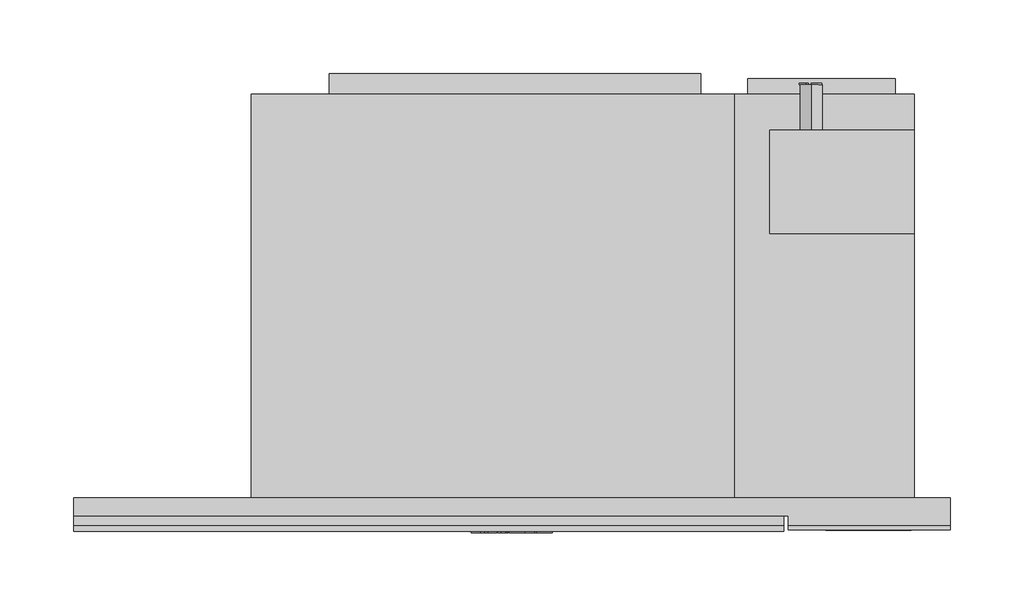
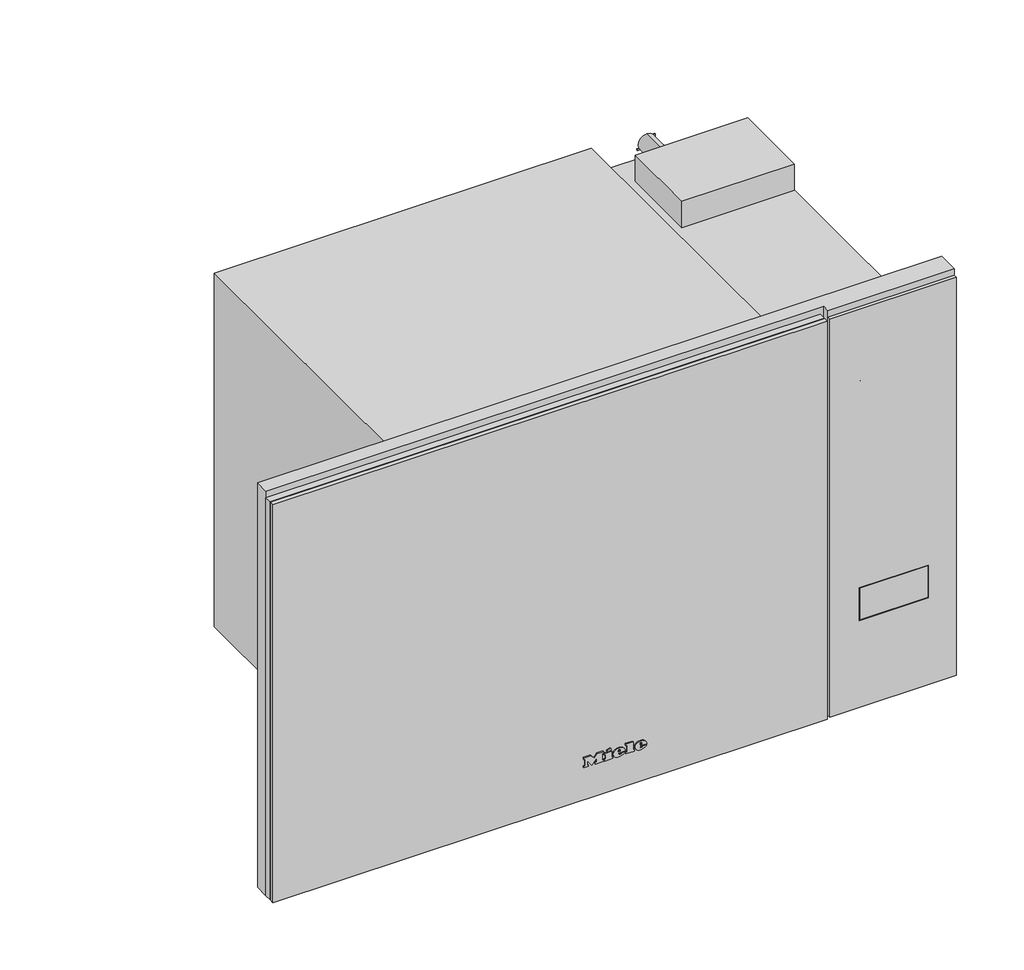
# Not in any storey: 1 proxy.
"""IFC4 building model written with IfcOpenShell, lengths in millimetres."""

import ifcopenshell
import ifcopenshell.guid

model = None  # the IFC model being written
_history = None  # IfcOwnerHistory: only IFC2X3 demands one
_inside = {}  # id of a spatial element -> (the spatial element, [elements in it])
_under = {}  # id of a project, library or spatial element -> (it, [spatial elements below it])
_declared = {}  # id of a project -> (the project, [libraries it declares])
_typed = {}  # id of a type object -> (the type object, [elements of that type])
_made_of = {}  # id of a material, layer set ... -> (it, [elements and type objects made of it])


def new_model(schema):
    """Start an empty IFC model of exactly this schema.

    Asked for "IFC4X3", IfcOpenShell would pick the latest addendum, in which some entities
    have other attributes; the version numbers below select the first issue.
    IFC2X3 requires an IfcOwnerHistory on every rooted entity: one is made here for all.
    """
    global model, _history
    if schema == "IFC4X3":
        model = ifcopenshell.file(schema_version=(4, 3, 0, 0))
    else:
        model = ifcopenshell.file(schema=schema)
    _inside.clear()
    _under.clear()
    _declared.clear()
    _typed.clear()
    _made_of.clear()
    _history = None
    if model.schema == "IFC2X3":
        org = make("IfcOrganization", Name="unknown")
        user = make(
            "IfcPersonAndOrganization",
            ThePerson=make("IfcPerson", FamilyName="unknown"),
            TheOrganization=org,
        )
        app = make(
            "IfcApplication",
            ApplicationDeveloper=org,
            Version="unknown",
            ApplicationFullName="unknown",
            ApplicationIdentifier="unknown",
        )
        _history = make(
            "IfcOwnerHistory",
            OwningUser=user,
            OwningApplication=app,
            ChangeAction="ADDED",
            CreationDate=0,
        )
    return model


def make(cls, **values):
    """One entity of the class cls with the attributes given. An attribute that is None is left unset."""
    return model.create_entity(
        cls, **{name: value for name, value in values.items() if value is not None}
    )


def rooted(cls, **values):
    """An entity with a GlobalId (a new one), such as an element, a storey or a relation."""
    return make(cls, GlobalId=ifcopenshell.guid.new(), OwnerHistory=_history, **values)


def si_unit(unit_type, name, prefix=None):
    """IfcSIUnit, for example si_unit("LENGTHUNIT", "METRE", prefix="MILLI")."""
    return make("IfcSIUnit", UnitType=unit_type, Prefix=prefix, Name=name)


def assignment(units):
    """IfcUnitAssignment: the units of a project."""
    return None if units is None else make("IfcUnitAssignment", Units=units)


def point(xyz):
    """IfcCartesianPoint."""
    return None if xyz is None else make("IfcCartesianPoint", Coordinates=xyz)


def direction(xyz):
    """IfcDirection."""
    return None if xyz is None else make("IfcDirection", DirectionRatios=xyz)


def frame(location, z_axis=None, x_axis=None):
    """IfcAxis2Placement3D, a coordinate frame: its origin and axes. An axis left out is left unset."""
    return make(
        "IfcAxis2Placement3D",
        Location=point(location),
        Axis=direction(z_axis),
        RefDirection=direction(x_axis),
    )


def frame_2d(location, x_axis=None):
    """IfcAxis2Placement2D, a coordinate frame in the plane: its origin and x axis."""
    return make(
        "IfcAxis2Placement2D", Location=point(location), RefDirection=direction(x_axis)
    )


def origin():
    """The frame at (0, 0, 0) with its axes left unset."""
    return frame((0.0, 0.0, 0.0))


def origin_with_axes():
    """The frame at (0, 0, 0) with the z axis (0, 0, 1) and the x axis (1, 0, 0) written out."""
    return frame((0.0, 0.0, 0.0), z_axis=(0.0, 0.0, 1.0), x_axis=(1.0, 0.0, 0.0))


def place(relative_to, where):
    """IfcLocalPlacement: puts the frame where relative to a parent placement (None: the world)."""
    return make(
        "IfcLocalPlacement", PlacementRelTo=relative_to, RelativePlacement=where
    )


def context(
    kind, dimensions, precision=None, world=None, true_north=None, identifier=None
):
    """IfcGeometricRepresentationContext, for example the 3D "Model" context."""
    return make(
        "IfcGeometricRepresentationContext",
        ContextIdentifier=identifier,
        ContextType=kind,
        CoordinateSpaceDimension=dimensions,
        Precision=precision,
        WorldCoordinateSystem=world,
        TrueNorth=true_north,
    )


def project(units=None, contexts=None):
    """IfcProject with its units and contexts."""
    return rooted(
        "IfcProject",
        Name="project",
        RepresentationContexts=contexts,
        UnitsInContext=assignment(units),
    )


def spatial(cls, under=None, at=None, **own):
    """A site, building, storey or space (cls), placed at a placement, below another one or the project."""
    s = rooted(cls, ObjectPlacement=at, **own)
    if under is not None:
        _under.setdefault(under.id(), (under, []))[1].append(s)
    return s


def polyline(points):
    """IfcPolyline through the points."""
    return make("IfcPolyline", Points=[point(p) for p in points])


def circle_curve(where, radius):
    """IfcCircle in the frame where."""
    return make("IfcCircle", Position=where, Radius=radius)


def ellipse_curve(where, semi_axis1, semi_axis2):
    """IfcEllipse in the frame where."""
    return make(
        "IfcEllipse", Position=where, SemiAxis1=semi_axis1, SemiAxis2=semi_axis2
    )


def trimmed(basis, trim1, trim2, sense, master):
    """IfcTrimmedCurve: the piece of a basis curve between two trims."""
    return make(
        "IfcTrimmedCurve",
        BasisCurve=basis,
        Trim1=trim1,
        Trim2=trim2,
        SenseAgreement=sense,
        MasterRepresentation=master,
    )


def segment(curve, same_sense, transition):
    """IfcCompositeCurveSegment."""
    return make(
        "IfcCompositeCurveSegment",
        Transition=transition,
        SameSense=same_sense,
        ParentCurve=curve,
    )


def composite_curve(segments, self_intersect=None):
    """IfcCompositeCurve: segments joined end to end."""
    return make("IfcCompositeCurve", Segments=segments, SelfIntersect=self_intersect)


def outline(outer, holes=None, kind="AREA"):
    """IfcArbitraryClosedProfileDef: a profile drawn as a closed curve; with holes, ...WithVoids."""
    if holes is None:
        return make("IfcArbitraryClosedProfileDef", ProfileType=kind, OuterCurve=outer)
    return make(
        "IfcArbitraryProfileDefWithVoids",
        ProfileType=kind,
        OuterCurve=outer,
        InnerCurves=holes,
    )


def extrude(swept, where, along, depth):
    """IfcExtrudedAreaSolid: the profile swept, set in the frame where, extruded along a direction by depth."""
    return make(
        "IfcExtrudedAreaSolid",
        SweptArea=swept,
        Position=where,
        ExtrudedDirection=direction(along),
        Depth=depth,
    )


def faces_of(points, faces, orient=None, outer=None):
    """IfcFace entities. A face is a list of loops; a loop is a list of indices into points, from 0.

    orient and outer hold one flag for each loop. By default every Orientation is true, the
    first loop of a face is its IfcFaceOuterBound and the others are IfcFaceBound.
    """
    made = []
    for i, loops in enumerate(faces):
        bounds = []
        for j, loop in enumerate(loops):
            is_outer = j == 0 if outer is None else outer[i][j]
            bounds.append(
                make(
                    "IfcFaceOuterBound" if is_outer else "IfcFaceBound",
                    Bound=make("IfcPolyLoop", Polygon=[points[k] for k in loop]),
                    Orientation=True if orient is None else orient[i][j],
                )
            )
        made.append(make("IfcFace", Bounds=bounds))
    return made


def faceted_brep(points, faces, orient=None, outer=None, voids=None):
    """IfcFacetedBrep: a solid bounded by flat faces; with voids (closed shells), ...WithVoids."""
    shared = [point(p) for p in points]
    hull = make("IfcClosedShell", CfsFaces=faces_of(shared, faces, orient, outer))
    if voids is None:
        return make("IfcFacetedBrep", Outer=hull)
    return make(
        "IfcFacetedBrepWithVoids",
        Outer=hull,
        Voids=[
            make(cls, CfsFaces=faces_of(shared, fs, o, b)) for cls, fs, o, b in voids
        ],
    )


def shape(context_of_items, identifier, shape_type, items):
    """IfcShapeRepresentation: the items that make up one representation, for example the "Body"."""
    return make(
        "IfcShapeRepresentation",
        ContextOfItems=context_of_items,
        RepresentationIdentifier=identifier,
        RepresentationType=shape_type,
        Items=items,
    )


def source(mapping_origin, context_of_items, identifier, shape_type, items):
    """IfcRepresentationMap: a shape defined once, which mapped items show again and again."""
    return make(
        "IfcRepresentationMap",
        MappingOrigin=mapping_origin,
        MappedRepresentation=shape(context_of_items, identifier, shape_type, items),
    )


def transform(
    local_origin,
    x_axis=None,
    y_axis=None,
    z_axis=None,
    scale=None,
    scale2=None,
    scale3=None,
    uniform=True,
):
    """IfcCartesianTransformationOperator3D, or its non-uniform kind. x_axis, y_axis, z_axis: its Axis1, 2, 3."""
    if uniform:
        return make(
            "IfcCartesianTransformationOperator3D",
            Axis1=direction(x_axis),
            Axis2=direction(y_axis),
            LocalOrigin=point(local_origin),
            Scale=scale,
            Axis3=direction(z_axis),
        )
    return make(
        "IfcCartesianTransformationOperator3DnonUniform",
        Axis1=direction(x_axis),
        Axis2=direction(y_axis),
        LocalOrigin=point(local_origin),
        Scale=scale,
        Axis3=direction(z_axis),
        Scale2=scale2,
        Scale3=scale3,
    )


def mapped(mapping_source, mapping_target):
    """IfcMappedItem: shows the shape of a source again, moved by a transform."""
    return make(
        "IfcMappedItem", MappingSource=mapping_source, MappingTarget=mapping_target
    )


def made_of(thing, what):
    """Note that an element or type object is made of a material, layer set ...; save() writes the relation."""
    if what is not None:
        _made_of.setdefault(what.id(), (what, []))[1].append(thing)
    return thing


def element(
    cls,
    number,
    at=None,
    inside=None,
    cuts=None,
    type_object=None,
    material=None,
    context=None,
    identifier="Body",
    shape_type=None,
    held_by="IfcProductDefinitionShape",
    body=None,
    shapes=None,
    **own,
):
    """One element of the class cls, such as IfcWall. Its Tag is "e" and its number.

    at: its placement. inside: the storey or other place that contains it. cuts: it is an
    opening in that element (IfcRelVoidsElement). A single representation is given by context,
    identifier, shape_type and body (its items); several are given by shapes. held_by: the class
    of the entity that holds the representations. save() writes the other relations.
    """
    e = rooted(cls, Tag="e%d" % number, ObjectPlacement=at, **own)
    if body is not None:
        shapes = [shape(context, identifier, shape_type, body)]
    if shapes is not None:
        e.Representation = make(held_by, Representations=shapes)
    if inside is not None:
        _inside.setdefault(inside.id(), (inside, []))[1].append(e)
    if cuts is not None:
        rooted(
            "IfcRelVoidsElement", RelatingBuildingElement=cuts, RelatedOpeningElement=e
        )
    if type_object is not None:
        _typed.setdefault(type_object.id(), (type_object, []))[1].append(e)
    return made_of(e, material)


def aggregate(whole, parts):
    """IfcRelAggregates: a whole, such as a stair, and the parts it consists of."""
    return rooted("IfcRelAggregates", RelatingObject=whole, RelatedObjects=parts)


def save(model, path):
    """Write the relations noted so far, then the file.

    IfcRelAggregates (storeys below a building ...), IfcRelContainedInSpatialStructure (elements
    in a storey), IfcRelDefinesByType, IfcRelAssociatesMaterial and IfcRelDeclares: one each for
    every whole, place, type object, material and project.
    """
    for whole, parts in _under.values():
        aggregate(whole, parts)
    for where, things in _inside.values():
        rooted(
            "IfcRelContainedInSpatialStructure",
            RelatedElements=things,
            RelatingStructure=where,
        )
    for kind, things in _typed.values():
        rooted("IfcRelDefinesByType", RelatedObjects=things, RelatingType=kind)
    for what, things in _made_of.values():
        rooted("IfcRelAssociatesMaterial", RelatedObjects=things, RelatingMaterial=what)
    for by, libraries in _declared.values():
        rooted("IfcRelDeclares", RelatingContext=by, RelatedDefinitions=libraries)
    model.write(path)


def plane_surface(at):
    """IfcPlane: the flat surface through the origin of the frame at, square to its z axis."""
    return make("IfcPlane", Position=at)


def cylinder_surface(at, radius):
    """IfcCylindricalSurface: all points at the distance radius from the z axis of the frame at."""
    return make("IfcCylindricalSurface", Position=at, Radius=radius)


def revolved_surface(curve, axis_point, axis_direction):
    """IfcSurfaceOfRevolution: the curve turned about the line through axis_point along axis_direction."""
    return make(
        "IfcSurfaceOfRevolution",
        SweptCurve=make("IfcArbitraryOpenProfileDef", ProfileType="CURVE", Curve=curve),
        AxisPosition=make("IfcAxis1Placement", Location=point(axis_point), Axis=direction(axis_direction)),
    )


def extruded_surface(curve, direction_of_extrusion, depth):
    """IfcSurfaceOfLinearExtrusion: the curve pushed along a direction by depth."""
    return make(
        "IfcSurfaceOfLinearExtrusion",
        SweptCurve=make("IfcArbitraryOpenProfileDef", ProfileType="CURVE", Curve=curve),
        ExtrudedDirection=direction(direction_of_extrusion),
        Depth=depth,
    )


def advanced_brep(points, edges, surfaces, faces):
    """IfcAdvancedBrep: a solid bounded by faces that lie on surfaces and meet in shared edges.

    An edge is (start, end): straight between two places in points (the first is 0);
    or (start, end, curve); or (start, end, curve, False) where it runs against its curve.
    A face is (place in surfaces, loops), or (place, loops, False) where it looks against
    its surface's normal. A loop lists edges by number (the first is 1), with a minus sign
    where the edge is run from its end to its start. The first loop is the outer one.
    """
    corners = [point(p) for p in points]
    vertices = [make("IfcVertexPoint", VertexGeometry=c) for c in corners]
    made = []
    for start, end, *more in edges:
        made.append(
            make(
                "IfcEdgeCurve",
                EdgeStart=vertices[start],
                EdgeEnd=vertices[end],
                EdgeGeometry=more[0] if more else make("IfcPolyline", Points=[corners[start], corners[end]]),
                SameSense=more[1] if len(more) > 1 else True,
            )
        )
    hull = []
    for where, loops, *sense in faces:
        bounds = []
        for j, loop in enumerate(loops):
            ring = [make("IfcOrientedEdge", EdgeElement=made[abs(k) - 1], Orientation=k > 0) for k in loop]
            bounds.append(
                make(
                    "IfcFaceOuterBound" if j == 0 else "IfcFaceBound",
                    Bound=make("IfcEdgeLoop", EdgeList=ring),
                    Orientation=True,
                )
            )
        hull.append(make("IfcAdvancedFace", Bounds=bounds, FaceSurface=surfaces[where], SameSense=sense[0] if sense else True))
    return make("IfcAdvancedBrep", Outer=make("IfcClosedShell", CfsFaces=hull))


def specialty_equipment_3d04ccbc(model_context):
    return source(origin(), model_context, "Body", "SolidModel", [
        advanced_brep(
        [(21.28, -24.0, 16.633), (21.28, -24.0, 17.542), (27.301, -24.0, 17.542), (16.825, -24.0, 17.542), (19.3, -24.0, 14.5), (27.148, -24.0, 16.633), (24.43, -24.0, 16.633), (22.288, -24.0, 15.625), (21.28, -24.0, 18.694), (21.28, -24.0, 19.675), (22.819, -24.0, 19.675), (22.819, -24.0, 18.694), (21.28, -23.0, 16.633), (22.288, -23.0, 15.625), (24.43, -23.0, 16.633), (27.148, -23.0, 16.633), (19.3, -23.0, 14.5), (16.825, -23.0, 17.542), (27.301, -23.0, 17.542), (21.28, -23.0, 17.542), (21.28, -23.0, 18.694), (22.819, -23.0, 18.694), (22.819, -23.0, 19.675), (21.28, -23.0, 19.675)],
        [
            (0, 1),
            (1, 2),
            (2, 3, ellipse_curve(frame((22.063, -24.0, 17.542), z_axis=(0.0, -1.0, 0.0), x_axis=(-1.0, 0.0, 0.0)), 5.238, 4.329)),
            (3, 4, circle_curve(frame((20.3080491, -24.0, 17.848), z_axis=(0.0, -1.0, 0.0), x_axis=(0.0, 0.0, -1.0)), 3.4964649)),
            (4, 5, circle_curve(frame((21.9581428, -24.0, 20.224), z_axis=(0.0, -1.0, 0.0), x_axis=(0.0, 0.0, -1.0)), 6.3110933)),
            (5, 6),
            (6, 7, circle_curve(frame((22.7279412, -24.0, 17.47), z_axis=(0.0, 1.0, 0.0), x_axis=(0.0, 0.0, -1.0)), 1.896727)),
            (7, 0, circle_curve(frame((22.288, -24.0, 16.633), z_axis=(0.0, 1.0, 0.0), x_axis=(0.0, 0.0, -1.0)), 1.008)),
            (8, 9),
            (9, 10, circle_curve(frame((22.0495, -24.0, 19.675), z_axis=(0.0, 1.0, 0.0), x_axis=(0.0, 0.0, -1.0)), 0.7695)),
            (10, 11),
            (11, 8),
            (12, 13, circle_curve(frame((22.288, -23.0, 16.633), z_axis=(0.0, -1.0, 0.0), x_axis=(0.0, 0.0, -1.0)), 1.008)),
            (13, 14, circle_curve(frame((22.7279412, -23.0, 17.47), z_axis=(0.0, -1.0, 0.0), x_axis=(0.0, 0.0, -1.0)), 1.896727)),
            (14, 15),
            (15, 16, circle_curve(frame((21.9581428, -23.0, 20.224), z_axis=(0.0, 1.0, 0.0), x_axis=(0.0, 0.0, -1.0)), 6.3110933)),
            (16, 17, circle_curve(frame((20.3080491, -23.0, 17.848), z_axis=(0.0, 1.0, 0.0), x_axis=(0.0, 0.0, -1.0)), 3.4964649)),
            (17, 18, ellipse_curve(frame((22.063, -23.0, 17.542), z_axis=(0.0, 1.0, 0.0), x_axis=(-1.0, 0.0, 0.0)), 5.238, 4.329)),
            (18, 19),
            (19, 12),
            (20, 21),
            (21, 22),
            (22, 23, circle_curve(frame((22.0495, -23.0, 19.675), z_axis=(0.0, -1.0, 0.0), x_axis=(0.0, 0.0, -1.0)), 0.7695)),
            (23, 20),
            (0, 12),
            (19, 1),
            (18, 2),
            (5, 15),
            (14, 6),
            (17, 3),
            (13, 7),
            (16, 4),
            (8, 20),
            (23, 9),
            (22, 10),
            (21, 11),
        ],
        [
            plane_surface(frame((21.28, -24.0, 17.542), z_axis=(0.0, -1.0, 0.0), x_axis=(0.0, 0.0, 1.0))),
            plane_surface(frame((21.28, -23.0, 17.542), z_axis=(0.0, 1.0, 0.0), x_axis=(0.0, 0.0, -1.0))),
            plane_surface(frame((21.28, -24.0, 16.633), z_axis=(1.0, 0.0, 0.0), x_axis=(0.0, 1.0, 0.0))),
            plane_surface(frame((21.28, -24.0, 17.542), z_axis=(0.0, 0.0, -1.0), x_axis=(0.0, 1.0, 0.0))),
            plane_surface(frame((27.148, -24.0, 16.633), z_axis=(0.0, 0.0, 1.0), x_axis=(0.0, 1.0, 0.0))),
            extruded_surface(trimmed(ellipse_curve(frame((22.063, -22.0, 17.542), z_axis=(0.0, -1.0, 0.0), x_axis=(-1.0, 0.0, 0.0)), 5.238, 4.329), [point((27.301, -22.0, 17.542))], [point((16.825, -22.0, 17.542))], True, "CARTESIAN"), (0.0, -1.0, 0.0), 1.0),
            revolved_surface(polyline([(22.7279412, -23.0, 15.573272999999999), (22.7279412, -24.0, 15.573272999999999)]), (22.7279412, -23.0, 17.47), (0.0, 1.0, 0.0)),
            revolved_surface(polyline([(22.288, -23.0, 15.625), (22.288, -24.0, 15.625)]), (22.288, -23.0, 16.633), (0.0, 1.0, 0.0)),
            cylinder_surface(frame((20.3080491, -23.0, 17.848), z_axis=(0.0, -1.0, 0.0), x_axis=(0.0, 0.0, -1.0)), 3.4964649),
            cylinder_surface(frame((21.9581428, -23.0, 20.224), z_axis=(0.0, -1.0, 0.0), x_axis=(0.0, 0.0, -1.0)), 6.3110933),
            plane_surface(frame((21.28, -24.0, 18.694), z_axis=(1.0, 0.0, 0.0), x_axis=(0.0, 1.0, 0.0))),
            revolved_surface(polyline([(22.0495, -23.0, 18.9055), (22.0495, -24.0, 18.9055)]), (22.0495, -23.0, 19.675), (0.0, 1.0, 0.0)),
            plane_surface(frame((22.819, -24.0, 19.675), z_axis=(-1.0, 0.0, 0.0), x_axis=(0.0, 1.0, 0.0))),
            plane_surface(frame((22.819, -24.0, 18.694), z_axis=(0.0, 0.0, 1.0), x_axis=(0.0, 1.0, 0.0))),
        ],
        [
            (0, [[1, 2, 3, 4, 5, 6, 7, 8], [9, 10, 11, 12]]),
            (1, [[13, 14, 15, 16, 17, 18, 19, 20], [21, 22, 23, 24]]),
            (2, [[-1, 25, -20, 26]]),
            (3, [[-2, -26, -19, 27]]),
            (4, [[-6, 28, -15, 29]]),
            (5, [[-3, -27, -18, 30]]),
            (6, [[-7, -29, -14, 31]]),
            (7, [[-8, -31, -13, -25]]),
            (8, [[-4, -30, -17, 32]]),
            (9, [[-5, -32, -16, -28]]),
            (10, [[-9, 33, -24, 34]]),
            (11, [[-10, -34, -23, 35]]),
            (12, [[-11, -35, -22, 36]]),
            (13, [[-12, -36, -21, -33]]),
        ],
    ),
        advanced_brep(
        [(2.497, -24.0, 16.633), (2.497, -24.0, 17.542), (8.518, -24.0, 17.542), (-1.958, -24.0, 17.542), (0.517, -24.0, 14.5), (8.365, -24.0, 16.633), (5.647, -24.0, 16.633), (3.505, -24.0, 15.625), (2.497, -24.0, 18.694), (2.497, -24.0, 19.675), (4.036, -24.0, 19.675), (4.036, -24.0, 18.694), (2.497, -23.0, 16.633), (3.505, -23.0, 15.625), (5.647, -23.0, 16.633), (8.365, -23.0, 16.633), (0.517, -23.0, 14.5), (-1.958, -23.0, 17.542), (8.518, -23.0, 17.542), (2.497, -23.0, 17.542), (2.497, -23.0, 18.694), (4.036, -23.0, 18.694), (4.036, -23.0, 19.675), (2.497, -23.0, 19.675)],
        [
            (0, 1),
            (1, 2),
            (2, 3, ellipse_curve(frame((3.28, -24.0, 17.542), z_axis=(0.0, -1.0, 0.0), x_axis=(-1.0, 0.0, 0.0)), 5.238, 4.329)),
            (3, 4, circle_curve(frame((1.5250491, -24.0, 17.848), z_axis=(0.0, -1.0, 0.0), x_axis=(0.0, 0.0, -1.0)), 3.4964649)),
            (4, 5, circle_curve(frame((3.1751428, -24.0, 20.224), z_axis=(0.0, -1.0, 0.0), x_axis=(0.0, 0.0, -1.0)), 6.3110933)),
            (5, 6),
            (6, 7, circle_curve(frame((3.9449412, -24.0, 17.47), z_axis=(0.0, 1.0, 0.0), x_axis=(0.0, 0.0, -1.0)), 1.896727)),
            (7, 0, circle_curve(frame((3.505, -24.0, 16.633), z_axis=(0.0, 1.0, 0.0), x_axis=(0.0, 0.0, -1.0)), 1.008)),
            (8, 9),
            (9, 10, circle_curve(frame((3.2665, -24.0, 19.675), z_axis=(0.0, 1.0, 0.0), x_axis=(0.0, 0.0, -1.0)), 0.7695)),
            (10, 11),
            (11, 8),
            (12, 13, circle_curve(frame((3.505, -23.0, 16.633), z_axis=(0.0, -1.0, 0.0), x_axis=(0.0, 0.0, -1.0)), 1.008)),
            (13, 14, circle_curve(frame((3.9449412, -23.0, 17.47), z_axis=(0.0, -1.0, 0.0), x_axis=(0.0, 0.0, -1.0)), 1.896727)),
            (14, 15),
            (15, 16, circle_curve(frame((3.1751428, -23.0, 20.224), z_axis=(0.0, 1.0, 0.0), x_axis=(0.0, 0.0, -1.0)), 6.3110933)),
            (16, 17, circle_curve(frame((1.5250491, -23.0, 17.848), z_axis=(0.0, 1.0, 0.0), x_axis=(0.0, 0.0, -1.0)), 3.4964649)),
            (17, 18, ellipse_curve(frame((3.28, -23.0, 17.542), z_axis=(0.0, 1.0, 0.0), x_axis=(-1.0, 0.0, 0.0)), 5.238, 4.329)),
            (18, 19),
            (19, 12),
            (20, 21),
            (21, 22),
            (22, 23, circle_curve(frame((3.2665, -23.0, 19.675), z_axis=(0.0, -1.0, 0.0), x_axis=(0.0, 0.0, -1.0)), 0.7695)),
            (23, 20),
            (0, 12),
            (19, 1),
            (18, 2),
            (5, 15),
            (14, 6),
            (17, 3),
            (13, 7),
            (16, 4),
            (8, 20),
            (23, 9),
            (22, 10),
            (21, 11),
        ],
        [
            plane_surface(frame((2.497, -24.0, 17.542), z_axis=(0.0, -1.0, 0.0), x_axis=(0.0, 0.0, 1.0))),
            plane_surface(frame((2.497, -23.0, 17.542), z_axis=(0.0, 1.0, 0.0), x_axis=(0.0, 0.0, -1.0))),
            plane_surface(frame((2.497, -24.0, 16.633), z_axis=(1.0, 0.0, 0.0), x_axis=(0.0, 1.0, 0.0))),
            plane_surface(frame((2.497, -24.0, 17.542), z_axis=(0.0, 0.0, -1.0), x_axis=(0.0, 1.0, 0.0))),
            plane_surface(frame((8.365, -24.0, 16.633), z_axis=(0.0, 0.0, 1.0), x_axis=(0.0, 1.0, 0.0))),
            extruded_surface(trimmed(ellipse_curve(frame((3.28, -22.0, 17.542), z_axis=(0.0, -1.0, 0.0), x_axis=(-1.0, 0.0, 0.0)), 5.238, 4.329), [point((8.518, -22.0, 17.542))], [point((-1.958, -22.0, 17.542))], True, "CARTESIAN"), (0.0, -1.0, 0.0), 1.0),
            revolved_surface(polyline([(3.9449412, -23.0, 15.573272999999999), (3.9449412, -24.0, 15.573272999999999)]), (3.9449412, -23.0, 17.47), (0.0, 1.0, 0.0)),
            revolved_surface(polyline([(3.505, -23.0, 15.625), (3.505, -24.0, 15.625)]), (3.505, -23.0, 16.633), (0.0, 1.0, 0.0)),
            cylinder_surface(frame((1.5250491, -23.0, 17.848), z_axis=(0.0, -1.0, 0.0), x_axis=(0.0, 0.0, -1.0)), 3.4964649),
            cylinder_surface(frame((3.1751428, -23.0, 20.224), z_axis=(0.0, -1.0, 0.0), x_axis=(0.0, 0.0, -1.0)), 6.3110933),
            plane_surface(frame((2.497, -24.0, 18.694), z_axis=(1.0, 0.0, 0.0), x_axis=(0.0, 1.0, 0.0))),
            revolved_surface(polyline([(3.2665, -23.0, 18.9055), (3.2665, -24.0, 18.9055)]), (3.2665, -23.0, 19.675), (0.0, 1.0, 0.0)),
            plane_surface(frame((4.036, -24.0, 19.675), z_axis=(-1.0, 0.0, 0.0), x_axis=(0.0, 1.0, 0.0))),
            plane_surface(frame((4.036, -24.0, 18.694), z_axis=(0.0, 0.0, 1.0), x_axis=(0.0, 1.0, 0.0))),
        ],
        [
            (0, [[1, 2, 3, 4, 5, 6, 7, 8], [9, 10, 11, 12]]),
            (1, [[13, 14, 15, 16, 17, 18, 19, 20], [21, 22, 23, 24]]),
            (2, [[-1, 25, -20, 26]]),
            (3, [[-2, -26, -19, 27]]),
            (4, [[-6, 28, -15, 29]]),
            (5, [[-3, -27, -18, 30]]),
            (6, [[-7, -29, -14, 31]]),
            (7, [[-8, -31, -13, -25]]),
            (8, [[-4, -30, -17, 32]]),
            (9, [[-5, -32, -16, -28]]),
            (10, [[-9, 33, -24, 34]]),
            (11, [[-10, -34, -23, 35]]),
            (12, [[-11, -35, -22, 36]]),
            (13, [[-12, -36, -21, -33]]),
        ],
    ),
        extrude(outline(polyline([(22.969, -7.34), (21.511, -6.656), (22.933, -3.605), (24.391, -4.28), (22.969, -7.34)])), frame((0.0, -24.0, 0.0), z_axis=(0.0, 1.0, 0.0), x_axis=(0.0, 0.0, 1.0)), (0.0, 0.0, 1.0), 1.0),
        extrude(outline(polyline([(21.313, -9.563), (19.702, -9.563), (19.702, -8.492), (16.012, -8.492), (16.012, -9.563), (14.5, -9.563), (14.5, -2.462), (16.012, -2.462), (16.012, -3.506), (21.313, -3.506), (21.313, -9.563)])), frame((0.0, -24.0, 0.0), z_axis=(0.0, 1.0, 0.0), x_axis=(0.0, 0.0, 1.0)), (0.0, 0.0, 1.0), 1.0),
        extrude(outline(polyline([(22.033, 9.022), (22.033, 10.102), (16.012, 10.102), (16.012, 9.022), (14.5, 9.022), (14.5, 16.321), (16.012, 16.321), (16.012, 15.214), (23.5, 15.214), (23.5, 9.022), (22.033, 9.022)])), frame((0.0, -24.0, 0.0), z_axis=(0.0, 1.0, 0.0), x_axis=(0.0, 0.0, 1.0)), (0.0, 0.0, 1.0), 1.0),
        extrude(outline(polyline([(22.033, -27.5), (22.033, -26.411), (16.012, -26.411), (16.012, -27.5), (14.5, -27.5), (14.5, -23.54), (16.012, -23.54), (16.012, -24.62), (19.8341247, -24.62), (14.5, -20.597), (19.9402223, -16.556), (16.012, -16.556), (16.012, -17.663), (14.5, -17.663), (14.5, -10.481), (16.012, -10.481), (16.012, -11.624), (22.033, -11.624), (22.033, -10.481), (23.5, -10.481), (23.5, -15.962), (20.125, -18.59), (23.5, -21.227), (23.5, -27.5), (22.033, -27.5)])), frame((0.0, -24.0, 0.0), z_axis=(0.0, 1.0, 0.0), x_axis=(0.0, 0.0, 1.0)), (0.0, 0.0, 1.0), 1.0),
        extrude(outline(polyline([(213.5, -19.0), (272.5, -19.0), (272.5, -22.0), (213.5, -22.0), (213.5, -19.0)])), frame((0.0, 0.0, 65.0), z_axis=(0.0, 0.0, 1.0), x_axis=(1.0, 0.0, 0.0)), (0.0, 0.0, 1.0), 29.0),
        extrude(outline(polyline([(350.5, 297.5), (350.5, 187.5), (-15.5, 187.5), (-15.5, 297.5), (350.5, 297.5)]), holes=[polyline([(94.5, 273.0), (64.5, 273.0), (64.5, 213.0), (94.5, 213.0), (94.5, 273.0)])]), frame((0.0, -22.0, 0.0), z_axis=(0.0, 1.0, 0.0), x_axis=(0.0, 0.0, 1.0)), (0.0, 0.0, 1.0), 3.0),
        extrude(outline(polyline([(213.0, -21.8), (271.0, -21.8), (271.0, -22.1), (213.0, -22.1), (213.0, -21.8)])), frame((0.0, 0.0, 260.0), z_axis=(0.0, 0.0, 1.0), x_axis=(1.0, 0.0, 0.0)), (0.0, 0.0, 1.0), 25.0),
        extrude(outline(polyline([(350.5, -297.5), (-15.5, -297.5), (-15.5, 184.5), (350.5, 184.5), (350.5, -297.5)]), holes=[polyline([(293.5, -165.0), (293.5, 180.0), (41.5, 180.0), (41.5, -165.0), (293.5, -165.0)])]), frame((0.0, -19.0, 0.0), z_axis=(0.0, 1.0, 0.0), x_axis=(0.0, 0.0, 1.0)), (0.0, 0.0, 1.0), 6.5),
        extrude(outline(polyline([(-165.0, 7.0), (180.0, 7.0), (180.0, -19.0), (-165.0, -19.0), (-165.0, 7.0)])), frame((0.0, 0.0, 41.5), z_axis=(0.0, 0.0, 1.0), x_axis=(1.0, 0.0, 0.0)), (0.0, 0.0, 1.0), 252.0),
        extrude(outline(polyline([(-297.5, -19.0), (184.5, -19.0), (184.5, -23.0), (-297.5, -23.0), (-297.5, -19.0)])), frame((0.0, 0.0, -15.5), z_axis=(0.0, 0.0, 1.0), x_axis=(1.0, 0.0, 0.0)), (0.0, 0.0, 1.0), 366.0),
        extrude(outline(polyline([(329.5536781, 203.1660444), (328.2952065, 203.1660444), (328.2952065, 209.1269959), (325.3028248, 209.1269959), (325.3028248, 203.4835385), (324.0487231, 203.4835385), (324.0487231, 209.1269959), (320.7630117, 209.1269959), (320.7630117, 203.0), (319.5, 203.0), (319.5, 210.3757838), (329.5536781, 210.3757838), (329.5536781, 203.1660444)])), frame((0.0, 280.5, 0.0), z_axis=(0.0, 1.0, 0.0), x_axis=(0.0, 0.0, 1.0)), (0.0, 0.0, 1.0), 1.0),
        extrude(outline(polyline([(329.5536781, 199.8530432), (320.7543004, 199.8530432), (320.7543004, 194.8378502), (319.5, 194.8378502), (319.5, 201.1246692), (329.5536781, 201.1246692), (329.5536781, 199.8530432)])), frame((0.0, 280.5, 0.0), z_axis=(0.0, 1.0, 0.0), x_axis=(0.0, 0.0, 1.0)), (0.0, 0.0, 1.0), 1.0),
        extrude(outline(composite_curve([segment(trimmed(circle_curve(frame_2d((324.5, 203.0)), 7.5), [point((317.0, 203.0))], [point((332.0, 203.0))], False, "CARTESIAN"), True, "CONTINUOUS"), segment(trimmed(circle_curve(frame_2d((324.5, 203.0)), 7.5), [point((332.0, 203.0))], [point((317.0, 203.0))], False, "CARTESIAN"), True, "CONTINUOUS")], self_intersect=False)), frame((0.0, 249.5, 0.0), z_axis=(0.0, 1.0, 0.0), x_axis=(0.0, 0.0, 1.0)), (0.0, 0.0, 1.0), 31.0),
        extrude(outline(polyline([(70.0, 176.0), (70.0, 96.0), (-10.0, 96.0), (-10.0, 176.0), (70.0, 176.0)])), frame((0.0, 0.0, 4.0), z_axis=(0.0, 0.0, 1.0), x_axis=(1.0, 0.0, 0.0)), (0.0, 0.0, 1.0), 12.0),
        extrude(outline(polyline([(-114.0, 235.25), (-114.0, 222.75), (-142.0, 222.75), (-142.0, 235.25), (-114.0, 235.25)])), origin_with_axes(), (0.0, 0.0, 1.0), 12.0),
        extrude(outline(polyline([(235.0, 235.25), (235.0, 222.75), (207.0, 222.75), (207.0, 235.25), (235.0, 235.25)])), origin_with_axes(), (0.0, 0.0, 1.0), 12.0),
        extrude(outline(polyline([(235.0, 55.25), (235.0, 42.75), (207.0, 42.75), (207.0, 55.25), (235.0, 55.25)])), origin_with_axes(), (0.0, 0.0, 1.0), 12.0),
        extrude(outline(polyline([(-114.0, 55.25), (-114.0, 42.75), (-142.0, 42.75), (-142.0, 55.25), (-114.0, 55.25)])), origin_with_axes(), (0.0, 0.0, 1.0), 12.0),
        extrude(outline(composite_curve([segment(trimmed(circle_curve(frame_2d((-128.0, 229.0)), 18.5), [point((-109.5, 229.0))], [point((-146.5, 229.0))], False, "CARTESIAN"), True, "CONTINUOUS"), segment(trimmed(circle_curve(frame_2d((-128.0, 229.0)), 18.5), [point((-146.5, 229.0))], [point((-109.5, 229.0))], False, "CARTESIAN"), True, "CONTINUOUS")], self_intersect=False)), frame((0.0, 0.0, 12.0), z_axis=(0.0, 0.0, 1.0), x_axis=(1.0, 0.0, 0.0)), (0.0, 0.0, 1.0), 4.0),
        extrude(outline(composite_curve([segment(trimmed(circle_curve(frame_2d((221.0, 229.0)), 18.5), [point((239.5, 229.0))], [point((202.5, 229.0))], False, "CARTESIAN"), True, "CONTINUOUS"), segment(trimmed(circle_curve(frame_2d((221.0, 229.0)), 18.5), [point((202.5, 229.0))], [point((239.5, 229.0))], False, "CARTESIAN"), True, "CONTINUOUS")], self_intersect=False)), frame((0.0, 0.0, 12.0), z_axis=(0.0, 0.0, 1.0), x_axis=(1.0, 0.0, 0.0)), (0.0, 0.0, 1.0), 4.0),
        extrude(outline(composite_curve([segment(trimmed(circle_curve(frame_2d((-128.0, 49.0)), 18.5), [point((-109.5, 49.0))], [point((-146.5, 49.0))], False, "CARTESIAN"), True, "CONTINUOUS"), segment(trimmed(circle_curve(frame_2d((-128.0, 49.0)), 18.5), [point((-146.5, 49.0))], [point((-109.5, 49.0))], False, "CARTESIAN"), True, "CONTINUOUS")], self_intersect=False)), frame((0.0, 0.0, 12.0), z_axis=(0.0, 0.0, 1.0), x_axis=(1.0, 0.0, 0.0)), (0.0, 0.0, 1.0), 4.0),
        extrude(outline(composite_curve([segment(trimmed(circle_curve(frame_2d((221.0, 49.0)), 18.5), [point((239.5, 49.0))], [point((202.5, 49.0))], False, "CARTESIAN"), True, "CONTINUOUS"), segment(trimmed(circle_curve(frame_2d((221.0, 49.0)), 18.5), [point((202.5, 49.0))], [point((239.5, 49.0))], False, "CARTESIAN"), True, "CONTINUOUS")], self_intersect=False)), frame((0.0, 0.0, 12.0), z_axis=(0.0, 0.0, 1.0), x_axis=(1.0, 0.0, 0.0)), (0.0, 0.0, 1.0), 4.0),
        extrude(outline(polyline([(160.0, 284.5), (260.0, 284.5), (260.0, 274.0), (160.0, 274.0), (160.0, 284.5)])), frame((0.0, 0.0, 52.0), z_axis=(0.0, 0.0, 1.0), x_axis=(1.0, 0.0, 0.0)), (0.0, 0.0, 1.0), 245.0),
        extrude(outline(polyline([(-124.0, 288.0), (128.0, 288.0), (128.0, 274.0), (-124.0, 274.0), (-124.0, 288.0)])), frame((0.0, 0.0, 71.0), z_axis=(0.0, 0.0, 1.0), x_axis=(1.0, 0.0, 0.0)), (0.0, 0.0, 1.0), 183.0),
        extrude(outline(polyline([(175.0, 249.5), (273.0, 249.5), (273.0, 179.5), (175.0, 179.5), (175.0, 249.5)])), frame((0.0, 0.0, 317.0), z_axis=(0.0, 0.0, 1.0), x_axis=(1.0, 0.0, 0.0)), (0.0, 0.0, 1.0), 24.0),
        faceted_brep([(273.0, 274.0, 16.0), (-177.0, 274.0, 16.0), (-177.0, 274.0, 341.0), (151.0, 274.0, 341.0), (151.0, 274.0, 317.0), (273.0, 274.0, 317.0), (-177.0, 0.0, 341.0), (-177.0, 0.0, 16.0), (273.0, 0.0, 16.0), (273.0, 0.0, 317.0), (151.0, 0.0, 317.0), (151.0, 0.0, 341.0), (183.0, 0.0, 307.5), (183.0, 0.0, 31.5), (-170.0, 0.0, 31.5), (-170.0, 0.0, 307.5), (183.0, 2.0, 307.5), (-170.0, 2.0, 307.5), (-170.0, 2.0, 31.5), (183.0, 2.0, 31.5), (144.0, 2.0, 268.5), (144.0, 2.0, 65.5), (-141.0, 2.0, 65.5), (-141.0, 2.0, 268.5), (144.0, 266.0, 268.5), (-141.0, 266.0, 268.5), (-141.0, 266.0, 65.5), (144.0, 266.0, 65.5)], [[[0, 1, 2, 3, 4, 5]], [[6, 7, 8, 9, 10, 11], [12, 13, 14, 15]], [[2, 6, 11, 3]], [[2, 1, 7, 6]], [[1, 0, 8, 7]], [[8, 0, 5, 9]], [[4, 10, 9, 5]], [[10, 4, 3, 11]], [[16, 17, 18, 19], [20, 21, 22, 23]], [[16, 19, 13, 12]], [[19, 18, 14, 13]], [[17, 16, 12, 15]], [[24, 25, 26, 27]], [[24, 27, 21, 20]], [[27, 26, 22, 21]], [[26, 25, 23, 22]], [[25, 24, 20, 23]], [[18, 17, 15, 14]]]),
        faceted_brep([(183.0, 0.0, 307.5), (183.0, 0.0, 31.5), (183.0, -12.5, 31.5), (183.0, -12.5, 307.5), (-170.0, 0.0, 31.5), (-170.0, -12.5, 31.5), (-170.0, 0.0, 307.5), (-170.0, -12.5, 307.5), (297.5, -19.0, -15.5), (297.5, -19.0, 356.5), (187.5, -19.0, 356.5), (187.5, -19.0, -15.5), (297.5, 0.0, 356.5), (297.5, 0.0, -15.5), (-297.5, 0.0, -15.5), (-297.5, 0.0, 356.5), (-297.5, -12.5, 356.5), (187.5, -12.5, 356.5), (-297.5, -12.5, -15.5), (187.5, -12.5, -15.5)], [[[0, 1, 2, 3]], [[1, 4, 5, 2]], [[4, 6, 7, 5]], [[6, 0, 3, 7]], [[8, 9, 10, 11]], [[12, 13, 14, 15], [1, 0, 6, 4]], [[12, 15, 16, 17, 10, 9]], [[15, 14, 18, 16]], [[14, 13, 8, 11, 19, 18]], [[9, 8, 13, 12]], [[19, 17, 16, 18], [3, 2, 5, 7]], [[17, 19, 11, 10]]]),
    ])


model = new_model("IFC4")

# Units and contexts
model_context = context("Model", 3, world=origin())
ifc_project = project(units=[si_unit("LENGTHUNIT", "METRE", prefix="MILLI")], contexts=[model_context])

# Site, building
site = spatial("IfcSite", under=ifc_project)
building = spatial("IfcBuilding", under=site)

# Proxy
placement = place(None, origin())
specialty_equipment_shape = specialty_equipment_3d04ccbc(model_context)
element("IfcBuildingElementProxy", 1, Name="11103410_D_M2230SC_OBSW : 24223020_D_11103410_M2230SC_OBSW", ObjectType="11103410_D_M2230SC_OBSW : 24223020_D_11103410_M2230SC_OBSW", at=placement, inside=building, context=model_context, shape_type="MappedRepresentation", body=[
    mapped(specialty_equipment_shape, transform((0.0, 0.0, 0.0), x_axis=(1.0, 0.0, 0.0), y_axis=(0.0, 1.0, 0.0), z_axis=(0.0, 0.0, 1.0))),
])

save(model, "model.ifc")
